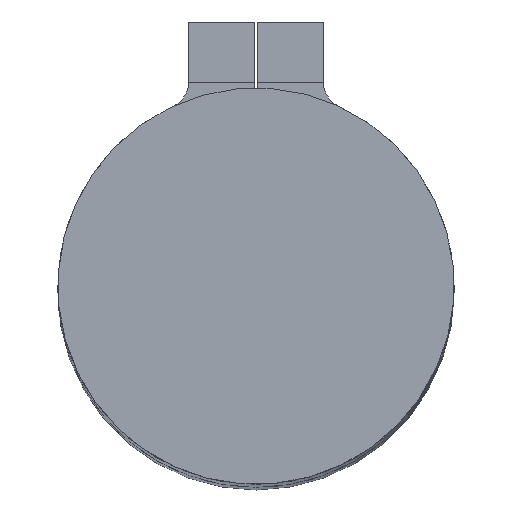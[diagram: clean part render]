
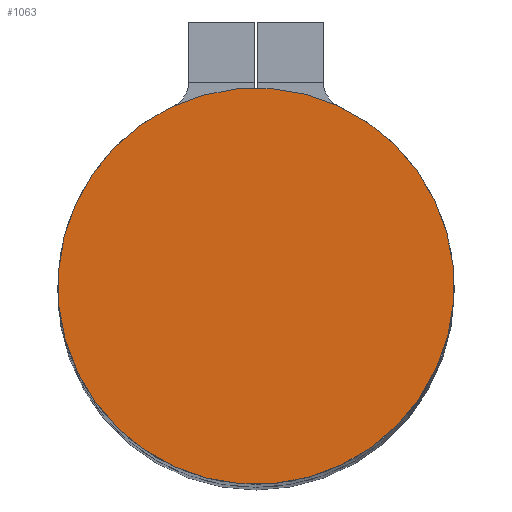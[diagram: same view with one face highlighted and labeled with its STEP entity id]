
A CAD part, top view. The second image highlights one B-rep face of the part: STEP entity #1063.
In plain terms, the highlighted planar face has unit normal (0, 0, 1) as drawn and (0, 1, 0) by its records, which use the part's own axes.
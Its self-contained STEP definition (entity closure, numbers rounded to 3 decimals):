
#72 = AXIS2_PLACEMENT_3D ( 'NONE', #106, #695, #210 ) ;
#84 = CARTESIAN_POINT ( 'NONE',  ( 0., 126.5, 0. ) ) ;
#106 = CARTESIAN_POINT ( 'NONE',  ( 0., 126.5, 0. ) ) ;
#210 = DIRECTION ( 'NONE',  ( 0., 0., -1. ) ) ;
#276 = EDGE_CURVE ( 'NONE', #1441, #287, #1182, .T. ) ;
#287 = VERTEX_POINT ( 'NONE', #1155 ) ;
#323 = EDGE_LOOP ( 'NONE', ( #1021, #1522 ) ) ;
#390 = DIRECTION ( 'NONE',  ( 0., 0., 1. ) ) ;
#490 = AXIS2_PLACEMENT_3D ( 'NONE', #1464, #1000, #390 ) ;
#545 = CIRCLE ( 'NONE', #72, 7.5 ) ;
#560 = EDGE_CURVE ( 'NONE', #287, #1441, #545, .T. ) ;
#695 = DIRECTION ( 'NONE',  ( 0., -1., 0. ) ) ;
#710 = DIRECTION ( 'NONE',  ( 0., -1., 0. ) ) ;
#717 = AXIS2_PLACEMENT_3D ( 'NONE', #84, #710, #1178 ) ;
#866 = FACE_OUTER_BOUND ( 'NONE', #323, .T. ) ;
#990 = PLANE ( 'NONE',  #490 ) ;
#1000 = DIRECTION ( 'NONE',  ( 0., 1., 0. ) ) ;
#1021 = ORIENTED_EDGE ( 'NONE', *, *, #276, .F. ) ;
#1063 = ADVANCED_FACE ( 'NONE', ( #866 ), #990, .T. ) ;
#1155 = CARTESIAN_POINT ( 'NONE',  ( 0., 126.5, 7.5 ) ) ;
#1178 = DIRECTION ( 'NONE',  ( 0., 0., -1. ) ) ;
#1182 = CIRCLE ( 'NONE', #717, 7.5 ) ;
#1441 = VERTEX_POINT ( 'NONE', #1534 ) ;
#1464 = CARTESIAN_POINT ( 'NONE',  ( 0., 126.5, 0. ) ) ;
#1522 = ORIENTED_EDGE ( 'NONE', *, *, #560, .F. ) ;
#1534 = CARTESIAN_POINT ( 'NONE',  ( 0., 126.5, -7.5 ) ) ;
